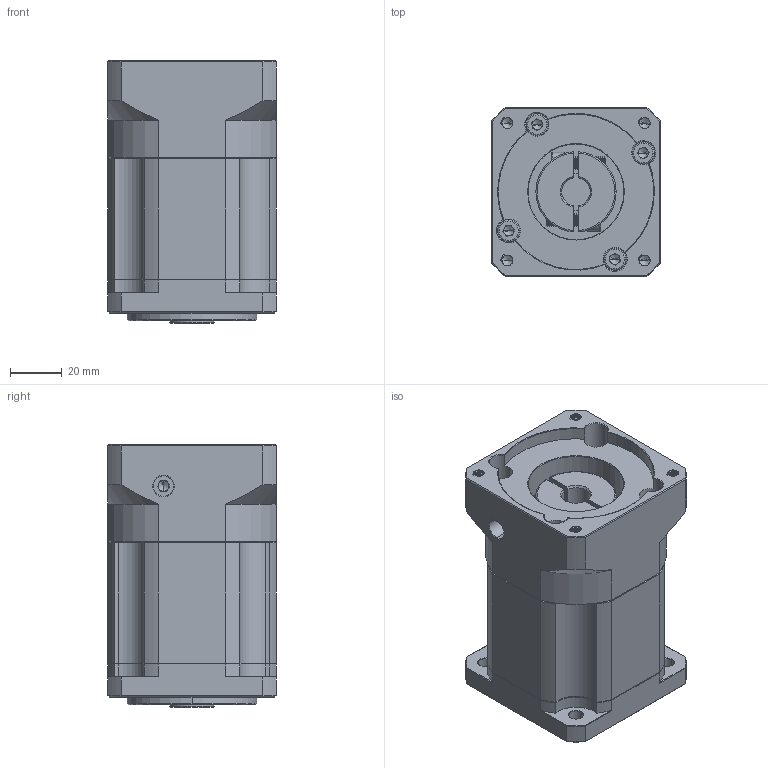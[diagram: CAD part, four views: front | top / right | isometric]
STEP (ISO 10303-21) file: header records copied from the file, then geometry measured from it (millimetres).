
FILE_DESCRIPTION (( 'STEP AP214' ), '1' );
FILE_NAME ('ZB060-K10-L2-P2-11-60-75-M5.step', '2023-08-16T07:11:03', ( '' ), ( '' ), 'SwSTEP 2.0', 'SolidWorks 2016', '' );
FILE_SCHEMA (( 'AUTOMOTIVE_DESIGN' ));
Length unit declared in the file: millimetre
Products named in the file (1): ZB060-K10-L2-P2-11-60-75-M5
Bounding box: 65 x 65 x 101.5 mm (x, y, z)
Volume: 318910.3 mm3; surface area: 57567 mm2
Topology: 6 solids, 6 shells, 2119 faces, 5709 edges, 3677 vertices
Faces by surface type: plane 1056, bspline 390, cylinder 357, cone 282, torus 34
Entity records: 112204 total; most frequent: CARTESIAN_POINT 38538, ORIENTED_EDGE 11362, DIRECTION 9044, EDGE_CURVE 5681, VERTEX_POINT 3677, LINE 3610, VECTOR 3610, AXIS2_PLACEMENT_3D 2717
